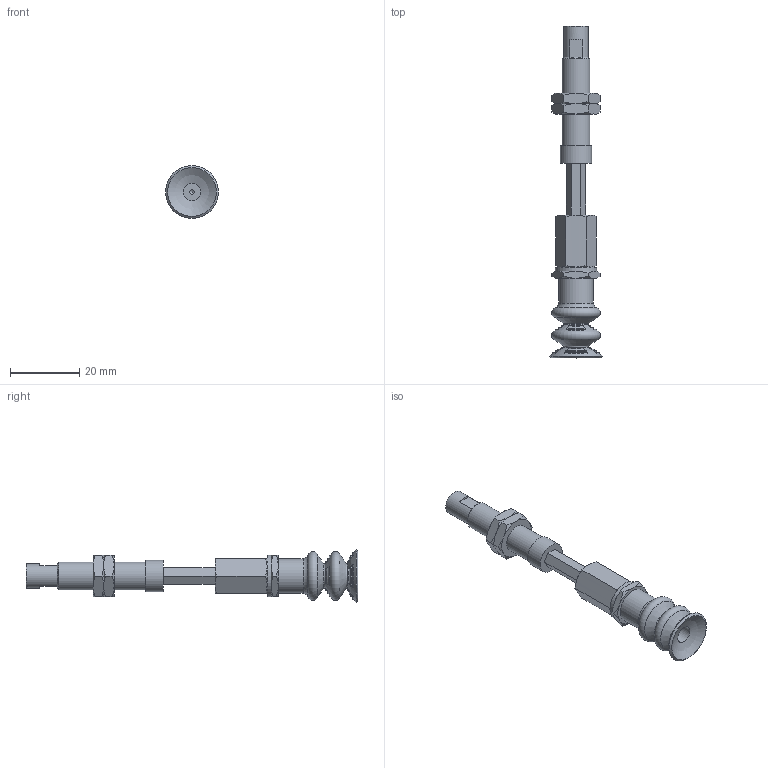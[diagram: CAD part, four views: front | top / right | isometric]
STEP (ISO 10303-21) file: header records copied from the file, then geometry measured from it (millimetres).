
FILE_DESCRIPTION(('STEP AP203'),'1');
FILE_NAME('.stp','2025-08-27T01:53:37',(' '),(' '),'Spatial InterOp 3D',' ',' ');
FILE_SCHEMA(('CONFIG_CONTROL_DESIGN'));
Length unit declared in the file: millimetre
Products named in the file (7): BNABPCTH-15-15-※; ADAPTER; NAPCTH-10-15-MBODY; Adapter_napc-15-T; Nut napc_h-15-15; NAPCTH-15-15-FBODY; BPCG-15-※
Assembly tree (7 placements, depth 2):
  BNABPCTH-15-15-※
    ADAPTER
    NAPCTH-10-15-MBODY
    Adapter_napc-15-T
    Nut napc_h-15-15  x2
    NAPCTH-15-15-FBODY
    BPCG-15-※
Bounding box: 15.2 x 95.7 x 15.2 mm (x, y, z)
Volume: 6056.3 mm3; surface area: 6198.9 mm2
Topology: 7 solids, 7 shells, 230 faces, 687 edges, 442 vertices
Faces by surface type: cone 63, plane 60, sphere 58, torus 34, cylinder 15
Full cylindrical faces by diameter (mm): 1.25 x1, 4.134 x2, 5 x5, 7 x1, 7.188 x2, 8 x1, 9 x1, 10 x1, 12 x1
Entity records: 6643 total; most frequent: CARTESIAN_POINT 1919, DIRECTION 950, ORIENTED_EDGE 822, AXIS2_PLACEMENT_3D 444, EDGE_CURVE 411, VERTEX_POINT 286, EDGE_LOOP 284, FACE_OUTER_BOUND 229
